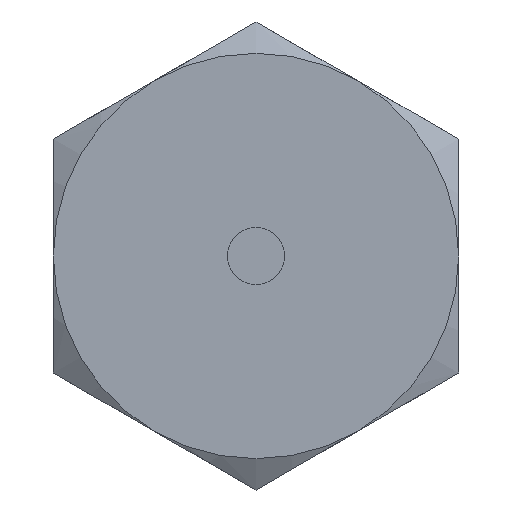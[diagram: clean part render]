
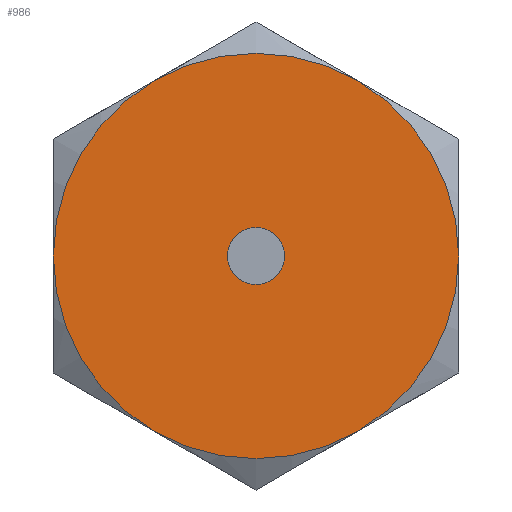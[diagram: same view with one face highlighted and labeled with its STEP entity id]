
A CAD part, front view. The second image highlights one B-rep face of the part: STEP entity #986.
In plain terms, the highlighted planar face has unit normal (0, -1, 0).
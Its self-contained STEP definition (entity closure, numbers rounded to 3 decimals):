
#816=FACE_BOUND('',#1224,.T.);
#817=FACE_BOUND('',#1225,.T.);
#871=CIRCLE('',#2465,13.501);
#873=CIRCLE('',#2470,13.501);
#875=CIRCLE('',#2475,13.501);
#877=CIRCLE('',#2480,13.501);
#878=CIRCLE('',#2482,13.501);
#882=CIRCLE('',#2492,13.501);
#883=CIRCLE('',#2493,13.501);
#884=CIRCLE('',#2495,1.9);
#986=ADVANCED_FACE('',(#816,#817),#1074,.T.);
#1074=PLANE('',#2496);
#1224=EDGE_LOOP('',(#1471));
#1225=EDGE_LOOP('',(#1472,#1473,#1474,#1475,#1476,#1477,#1478));
#1471=ORIENTED_EDGE('',*,*,#2041,.F.);
#1472=ORIENTED_EDGE('',*,*,#2040,.T.);
#1473=ORIENTED_EDGE('',*,*,#2039,.T.);
#1474=ORIENTED_EDGE('',*,*,#2006,.T.);
#1475=ORIENTED_EDGE('',*,*,#2013,.T.);
#1476=ORIENTED_EDGE('',*,*,#2020,.T.);
#1477=ORIENTED_EDGE('',*,*,#2027,.T.);
#1478=ORIENTED_EDGE('',*,*,#2029,.T.);
#1823=VERTEX_POINT('',#3158);
#1826=VERTEX_POINT('',#3172);
#1830=VERTEX_POINT('',#3194);
#1834=VERTEX_POINT('',#3216);
#1838=VERTEX_POINT('',#3238);
#1839=VERTEX_POINT('',#3244);
#1844=VERTEX_POINT('',#3276);
#1845=VERTEX_POINT('',#3280);
#2006=EDGE_CURVE('',#1823,#1826,#871,.T.);
#2013=EDGE_CURVE('',#1826,#1830,#873,.T.);
#2020=EDGE_CURVE('',#1830,#1834,#875,.T.);
#2027=EDGE_CURVE('',#1834,#1838,#877,.T.);
#2029=EDGE_CURVE('',#1838,#1839,#878,.T.);
#2039=EDGE_CURVE('',#1844,#1823,#882,.T.);
#2040=EDGE_CURVE('',#1839,#1844,#883,.T.);
#2041=EDGE_CURVE('',#1845,#1845,#884,.T.);
#2465=AXIS2_PLACEMENT_3D('',#3173,#2691,#2692);
#2470=AXIS2_PLACEMENT_3D('',#3195,#2702,#2703);
#2475=AXIS2_PLACEMENT_3D('',#3217,#2713,#2714);
#2480=AXIS2_PLACEMENT_3D('',#3239,#2724,#2725);
#2482=AXIS2_PLACEMENT_3D('',#3246,#2728,#2729);
#2492=AXIS2_PLACEMENT_3D('',#3275,#2749,#2750);
#2493=AXIS2_PLACEMENT_3D('',#3277,#2751,#2752);
#2495=AXIS2_PLACEMENT_3D('',#3279,#2755,#2756);
#2496=AXIS2_PLACEMENT_3D('',#3281,#2757,#2758);
#2691=DIRECTION('',(0.,-1.,0.));
#2692=DIRECTION('',(-0.5,0.,0.866));
#2702=DIRECTION('',(0.,-1.,0.));
#2703=DIRECTION('',(-1.,0.,0.));
#2713=DIRECTION('',(0.,-1.,0.));
#2714=DIRECTION('',(-0.5,0.,-0.866));
#2724=DIRECTION('',(0.,-1.,0.));
#2725=DIRECTION('',(0.5,0.,-0.866));
#2728=DIRECTION('',(0.,-1.,0.));
#2729=DIRECTION('',(1.,0.,0.));
#2749=DIRECTION('',(0.,-1.,0.));
#2750=DIRECTION('',(0.,0.,1.));
#2751=DIRECTION('',(0.,-1.,0.));
#2752=DIRECTION('',(0.5,0.,0.866));
#2755=DIRECTION('',(0.,-1.,0.));
#2756=DIRECTION('',(0.,0.,-1.));
#2757=DIRECTION('',(0.,-1.,0.));
#2758=DIRECTION('',(0.,0.,1.));
#3158=CARTESIAN_POINT('',(-6.751,-32.5,11.693));
#3172=CARTESIAN_POINT('',(-13.501,-32.5,0.));
#3173=CARTESIAN_POINT('',(0.,-32.5,0.));
#3194=CARTESIAN_POINT('',(-6.751,-32.5,-11.692));
#3195=CARTESIAN_POINT('',(0.,-32.5,0.));
#3216=CARTESIAN_POINT('',(6.751,-32.5,-11.693));
#3217=CARTESIAN_POINT('',(0.,-32.5,0.));
#3238=CARTESIAN_POINT('',(13.501,-32.5,0.));
#3239=CARTESIAN_POINT('',(0.,-32.5,0.));
#3244=CARTESIAN_POINT('',(6.751,-32.5,11.693));
#3246=CARTESIAN_POINT('',(0.,-32.5,0.));
#3275=CARTESIAN_POINT('',(0.,-32.5,0.));
#3276=CARTESIAN_POINT('',(0.,-32.5,13.501));
#3277=CARTESIAN_POINT('',(0.,-32.5,0.));
#3279=CARTESIAN_POINT('',(0.,-32.5,0.));
#3280=CARTESIAN_POINT('',(0.,-32.5,-1.9));
#3281=CARTESIAN_POINT('',(14.176,-32.5,-16.369));
